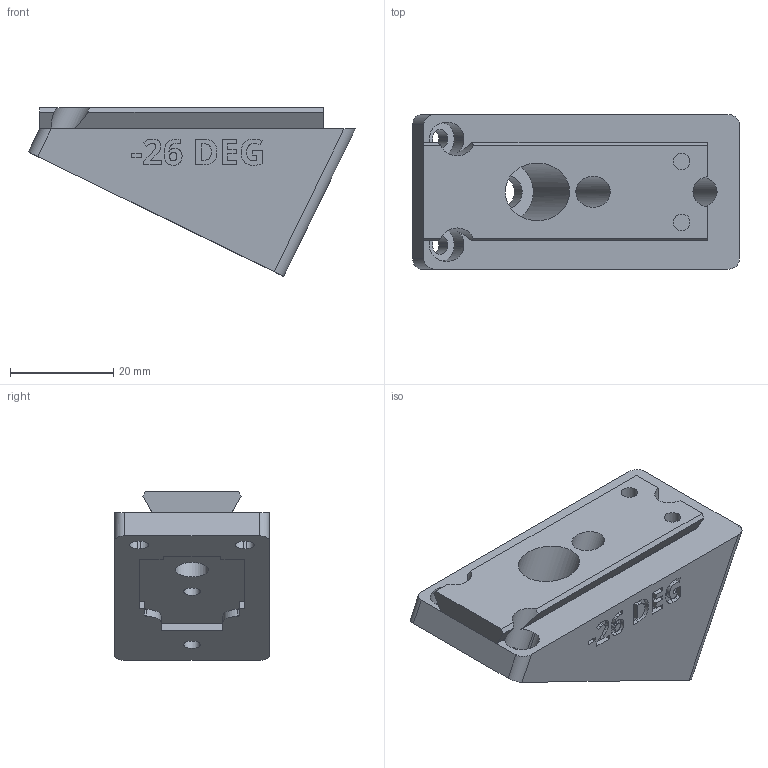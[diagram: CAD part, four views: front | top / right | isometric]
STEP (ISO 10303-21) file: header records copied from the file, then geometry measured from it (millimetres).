
FILE_DESCRIPTION(/* description */ ('STEP AP242 Edition 2','CAx-IF Rec.Pracs.---Representation and Presentation of Product Manufacturing Information (PMI)---4.0---2014-10-13','CAx-IF Rec.Pracs.---3D Tessellated Geometry---0.4---2014-09-14','2;1','CAx-IF Rec.Pracs.---User Defined Attributes---1.5---2016-08-15'),/* implementation_level */ '2;1');
FILE_NAME(/* name */ 'Camera Wedges - CAMERA MOUNTING WEDGE, NEG, -26 DEG',/* time_stamp */ '2026-07-08T20:36:00Z',/* author */ (''),/* organization */ (''),/* preprocessor_version */ 'ST-DEVELOPER v20',/* originating_system */ 'ONSHAPE BY PTC INC, 1.217',/* authorisation */ ' ');
FILE_SCHEMA (('AP242_MANAGED_MODEL_BASED_3D_ENGINEERING_MIM_LF { 1 0 10303 442 3 1 4 }'));
Length unit declared in the file: metre
Products named in the file (1): CAMERA MOUNTING WEDGE, NEG, -26 DEG
Bounding box: 63.37 x 30 x 32.68 mm (x, y, z)
Volume: 30021.3 mm3; surface area: 9330.4 mm2
Topology: 1 solids, 1 shells, 286 faces, 787 edges, 524 vertices
Faces by surface type: plane 144, bspline 84, cylinder 58
Full cylindrical faces by diameter (mm): 3.2 x4, 6 x2, 6.4 x1, 11.2 x1
Entity records: 9355 total; most frequent: CARTESIAN_POINT 2512, ORIENTED_EDGE 1556, DIRECTION 1147, EDGE_CURVE 778, VERTEX_POINT 523, LINE 479, VECTOR 479, AXIS2_PLACEMENT_3D 334
